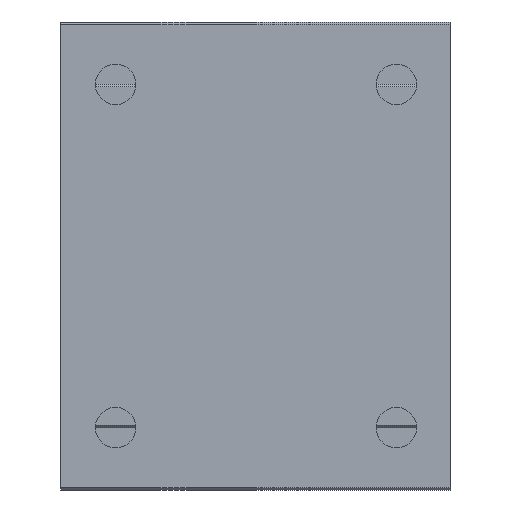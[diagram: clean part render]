
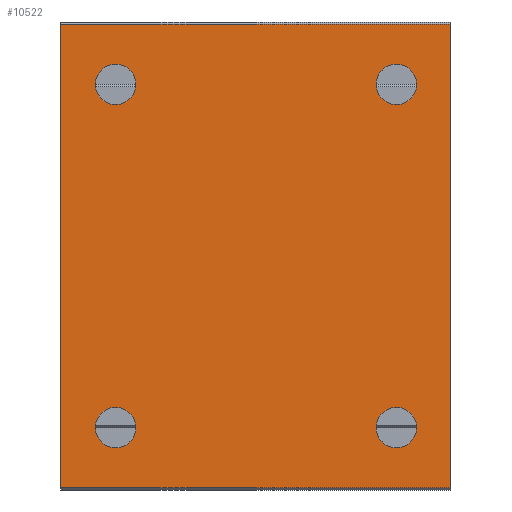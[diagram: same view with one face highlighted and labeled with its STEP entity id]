
A CAD part, front view. The second image highlights one B-rep face of the part: STEP entity #10522.
In plain terms, the highlighted planar face has unit normal (0, -1, 0).
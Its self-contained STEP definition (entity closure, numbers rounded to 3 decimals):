
#336=CIRCLE('',#11140,1.3);
#337=CIRCLE('',#11141,1.3);
#338=CIRCLE('',#11142,1.3);
#339=CIRCLE('',#11143,1.3);
#1028=ORIENTED_EDGE('',*,*,#4269,.T.);
#1029=ORIENTED_EDGE('',*,*,#4270,.F.);
#1030=ORIENTED_EDGE('',*,*,#4271,.F.);
#1031=ORIENTED_EDGE('',*,*,#4272,.F.);
#1032=ORIENTED_EDGE('',*,*,#4243,.T.);
#1033=ORIENTED_EDGE('',*,*,#4273,.F.);
#1034=ORIENTED_EDGE('',*,*,#4274,.F.);
#1035=ORIENTED_EDGE('',*,*,#4267,.T.);
#4243=EDGE_CURVE('',#5866,#5865,#6949,.T.);
#4267=EDGE_CURVE('',#5888,#5866,#6973,.T.);
#4269=EDGE_CURVE('',#5889,#5889,#336,.T.);
#4270=EDGE_CURVE('',#5890,#5890,#337,.T.);
#4271=EDGE_CURVE('',#5891,#5891,#338,.T.);
#4272=EDGE_CURVE('',#5892,#5892,#339,.T.);
#4273=EDGE_CURVE('',#5893,#5865,#6975,.T.);
#4274=EDGE_CURVE('',#5888,#5893,#6976,.T.);
#5865=VERTEX_POINT('',#15866);
#5866=VERTEX_POINT('',#15868);
#5888=VERTEX_POINT('',#15917);
#5889=VERTEX_POINT('',#15921);
#5890=VERTEX_POINT('',#15923);
#5891=VERTEX_POINT('',#15925);
#5892=VERTEX_POINT('',#15927);
#5893=VERTEX_POINT('',#15929);
#6949=LINE('',#15867,#7963);
#6973=LINE('',#15916,#7987);
#6975=LINE('',#15928,#7989);
#6976=LINE('',#15930,#7990);
#7963=VECTOR('',#12402,1000.);
#7987=VECTOR('',#12432,1000.);
#7989=VECTOR('',#12444,1000.);
#7990=VECTOR('',#12445,1000.);
#8933=EDGE_LOOP('',(#1028));
#8934=EDGE_LOOP('',(#1029));
#8935=EDGE_LOOP('',(#1030));
#8936=EDGE_LOOP('',(#1031));
#8937=EDGE_LOOP('',(#1032,#1033,#1034,#1035));
#9585=FACE_BOUND('',#8933,.T.);
#9586=FACE_BOUND('',#8934,.T.);
#9587=FACE_BOUND('',#8935,.T.);
#9588=FACE_BOUND('',#8936,.T.);
#9589=FACE_BOUND('',#8937,.T.);
#10237=PLANE('',#11139);
#10522=ADVANCED_FACE('',(#9585,#9586,#9587,#9588,#9589),#10237,.F.);
#11139=AXIS2_PLACEMENT_3D('',#15919,#12434,#12435);
#11140=AXIS2_PLACEMENT_3D('',#15920,#12436,#12437);
#11141=AXIS2_PLACEMENT_3D('',#15922,#12438,#12439);
#11142=AXIS2_PLACEMENT_3D('',#15924,#12440,#12441);
#11143=AXIS2_PLACEMENT_3D('',#15926,#12442,#12443);
#12402=DIRECTION('',(0.,0.,-1.));
#12432=DIRECTION('',(-1.,0.,0.));
#12434=DIRECTION('',(0.,1.,0.));
#12435=DIRECTION('',(0.,0.,1.));
#12436=DIRECTION('',(0.,1.,0.));
#12437=DIRECTION('',(0.,0.,1.));
#12438=DIRECTION('',(0.,-1.,0.));
#12439=DIRECTION('',(0.,0.,-1.));
#12440=DIRECTION('',(0.,-1.,0.));
#12441=DIRECTION('',(0.,0.,-1.));
#12442=DIRECTION('',(0.,-1.,0.));
#12443=DIRECTION('',(0.,0.,-1.));
#12444=DIRECTION('',(-1.,0.,0.));
#12445=DIRECTION('',(0.,0.,-1.));
#15866=CARTESIAN_POINT('',(0.,0.,-14.85));
#15867=CARTESIAN_POINT('',(0.,0.,14.85));
#15868=CARTESIAN_POINT('',(0.,0.,14.85));
#15916=CARTESIAN_POINT('',(25.,0.,14.85));
#15917=CARTESIAN_POINT('',(25.,0.,14.85));
#15919=CARTESIAN_POINT('',(25.,0.,14.85));
#15920=CARTESIAN_POINT('',(21.5,0.,11.));
#15921=CARTESIAN_POINT('',(21.5,0.,12.3));
#15922=CARTESIAN_POINT('',(21.5,0.,-11.));
#15923=CARTESIAN_POINT('',(21.5,0.,-12.3));
#15924=CARTESIAN_POINT('',(3.5,0.,-11.));
#15925=CARTESIAN_POINT('',(3.5,0.,-12.3));
#15926=CARTESIAN_POINT('',(3.5,0.,11.));
#15927=CARTESIAN_POINT('',(3.5,0.,9.7));
#15928=CARTESIAN_POINT('',(25.,0.,-14.85));
#15929=CARTESIAN_POINT('',(25.,0.,-14.85));
#15930=CARTESIAN_POINT('',(25.,0.,14.85));
